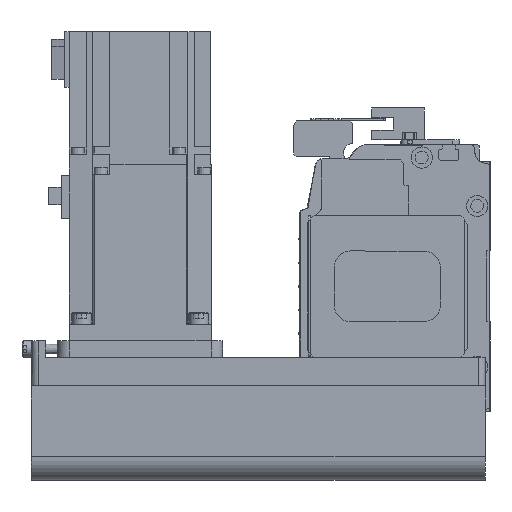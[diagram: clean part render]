
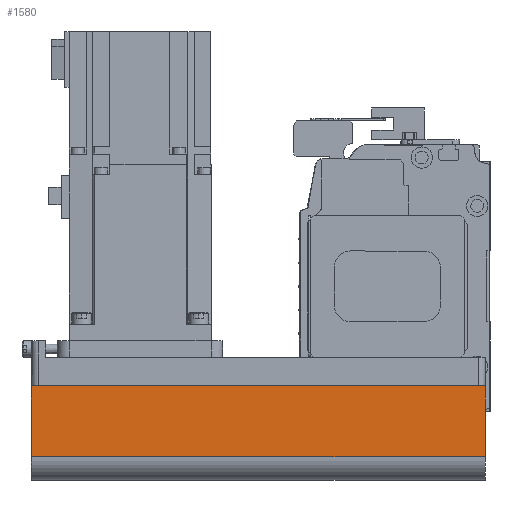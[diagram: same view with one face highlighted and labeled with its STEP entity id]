
A CAD part, left-side view. The second image highlights one B-rep face of the part: STEP entity #1580.
In plain terms, the highlighted planar face has unit normal (-1, 0, 0) as drawn and (0, -1, 0) by its records, which use the part's own axes.
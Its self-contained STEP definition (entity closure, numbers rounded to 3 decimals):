
#1580 = ADVANCED_FACE( '', ( #3583 ), #3584, .T. );
#3583 = FACE_OUTER_BOUND( '', #6095, .T. );
#3584 = PLANE( '', #6096 );
#6095 = EDGE_LOOP( '', ( #10334, #10335, #10336, #10337 ) );
#6096 = AXIS2_PLACEMENT_3D( '', #10338, #10339, #10340 );
#10334 = ORIENTED_EDGE( '', *, *, #14311, .F. );
#10335 = ORIENTED_EDGE( '', *, *, #15609, .F. );
#10336 = ORIENTED_EDGE( '', *, *, #15305, .T. );
#10337 = ORIENTED_EDGE( '', *, *, #15610, .T. );
#10338 = CARTESIAN_POINT( '', ( -192., -40., -12.1 ) );
#10339 = DIRECTION( '', ( 0., -1., 0. ) );
#10340 = DIRECTION( '', ( 0., 0., -1. ) );
#14311 = EDGE_CURVE( '', #17026, #17028, #17029, .T. );
#15305 = EDGE_CURVE( '', #18666, #18672, #18674, .T. );
#15609 = EDGE_CURVE( '', #18666, #17026, #19124, .T. );
#15610 = EDGE_CURVE( '', #18672, #17028, #19125, .T. );
#17026 = VERTEX_POINT( '', #20916 );
#17028 = VERTEX_POINT( '', #20919 );
#17029 = LINE( '', #20920, #20921 );
#18666 = VERTEX_POINT( '', #23094 );
#18672 = VERTEX_POINT( '', #23102 );
#18674 = LINE( '', #23104, #23105 );
#19124 = LINE( '', #23701, #23702 );
#19125 = LINE( '', #23703, #23704 );
#20916 = CARTESIAN_POINT( '', ( 0., -40., -12.1 ) );
#20919 = CARTESIAN_POINT( '', ( 0., -40., -42. ) );
#20920 = CARTESIAN_POINT( '', ( 0., -40., -12.1 ) );
#20921 = VECTOR( '', #25648, 1000. );
#23094 = CARTESIAN_POINT( '', ( -192., -40., -12.1 ) );
#23102 = CARTESIAN_POINT( '', ( -192., -40., -42. ) );
#23104 = CARTESIAN_POINT( '', ( -192., -40., -12.1 ) );
#23105 = VECTOR( '', #26925, 1000. );
#23701 = CARTESIAN_POINT( '', ( -192., -40., -12.1 ) );
#23702 = VECTOR( '', #27318, 1000. );
#23703 = CARTESIAN_POINT( '', ( -192., -40., -42. ) );
#23704 = VECTOR( '', #27319, 1000. );
#25648 = DIRECTION( '', ( 0., 0., -1. ) );
#26925 = DIRECTION( '', ( 0., 0., -1. ) );
#27318 = DIRECTION( '', ( 1., 0., 0. ) );
#27319 = DIRECTION( '', ( 1., 0., 0. ) );
